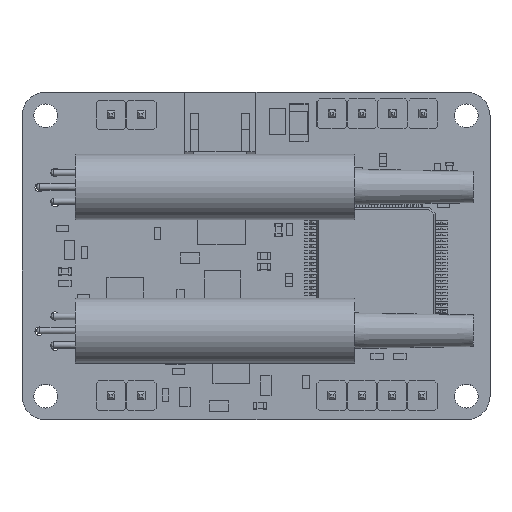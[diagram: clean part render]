
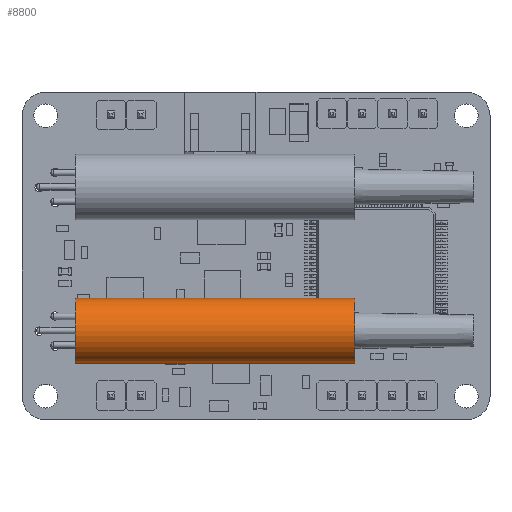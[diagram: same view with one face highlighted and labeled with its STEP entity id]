
A CAD part, top view. The second image highlights one B-rep face of the part: STEP entity #8800.
In plain terms, the highlighted cylindrical face has radius 2.75 mm (diameter 5.5 mm), a full revolution.
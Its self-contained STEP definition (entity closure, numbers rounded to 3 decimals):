
#8800 = ADVANCED_FACE('',(#8801),#8814,.T.);
#8801 = FACE_BOUND('',#8802,.T.);
#8802 = EDGE_LOOP('',(#8803,#8859,#8881,#8930));
#8803 = ORIENTED_EDGE('',*,*,#8804,.F.);
#8804 = EDGE_CURVE('',#8805,#8805,#8807,.T.);
#8805 = VERTEX_POINT('',#8806);
#8806 = CARTESIAN_POINT('',(2.75,0.,23.5));
#8807 = SURFACE_CURVE('',#8808,(#8813,#8847),.PCURVE_S1.);
#8808 = CIRCLE('',#8809,2.75);
#8809 = AXIS2_PLACEMENT_3D('',#8810,#8811,#8812);
#8810 = CARTESIAN_POINT('',(0.,0.,23.5));
#8811 = DIRECTION('',(0.,0.,1.));
#8812 = DIRECTION('',(1.,0.,0.));
#8813 = PCURVE('',#8814,#8819);
#8814 = CYLINDRICAL_SURFACE('',#8815,2.75);
#8815 = AXIS2_PLACEMENT_3D('',#8816,#8817,#8818);
#8816 = CARTESIAN_POINT('',(0.,0.,23.5));
#8817 = DIRECTION('',(0.,0.,-1.));
#8818 = DIRECTION('',(-1.,0.,0.));
#8819 = DEFINITIONAL_REPRESENTATION('',(#8820),#8846);
#8820 = B_SPLINE_CURVE_WITH_KNOTS('',3,(#8821,#8822,#8823,#8824,#8825,
    #8826,#8827,#8828,#8829,#8830,#8831,#8832,#8833,#8834,#8835,#8836,
    #8837,#8838,#8839,#8840,#8841,#8842,#8843,#8844,#8845),
  .UNSPECIFIED.,.F.,.F.,(4,1,1,1,1,1,1,1,1,1,1,1,1,1,1,1,1,1,1,1,1,1,4),
  (0.,0.286,0.571,0.857,1.142,
    1.428,1.714,1.999,2.285,
    2.57,2.856,3.142,3.427,
    3.713,3.998,4.284,4.57,
    4.855,5.141,5.426,5.712,
    5.998,6.283),.QUASI_UNIFORM_KNOTS.);
#8821 = CARTESIAN_POINT('',(9.425,0.));
#8822 = CARTESIAN_POINT('',(9.33,0.));
#8823 = CARTESIAN_POINT('',(9.139,0.));
#8824 = CARTESIAN_POINT('',(8.854,0.));
#8825 = CARTESIAN_POINT('',(8.568,0.));
#8826 = CARTESIAN_POINT('',(8.282,0.));
#8827 = CARTESIAN_POINT('',(7.997,0.));
#8828 = CARTESIAN_POINT('',(7.711,0.));
#8829 = CARTESIAN_POINT('',(7.426,0.));
#8830 = CARTESIAN_POINT('',(7.14,0.));
#8831 = CARTESIAN_POINT('',(6.854,0.));
#8832 = CARTESIAN_POINT('',(6.569,0.));
#8833 = CARTESIAN_POINT('',(6.283,0.));
#8834 = CARTESIAN_POINT('',(5.998,0.));
#8835 = CARTESIAN_POINT('',(5.712,0.));
#8836 = CARTESIAN_POINT('',(5.426,0.));
#8837 = CARTESIAN_POINT('',(5.141,0.));
#8838 = CARTESIAN_POINT('',(4.855,0.));
#8839 = CARTESIAN_POINT('',(4.57,0.));
#8840 = CARTESIAN_POINT('',(4.284,0.));
#8841 = CARTESIAN_POINT('',(3.998,0.));
#8842 = CARTESIAN_POINT('',(3.713,0.));
#8843 = CARTESIAN_POINT('',(3.427,0.));
#8844 = CARTESIAN_POINT('',(3.237,0.));
#8845 = CARTESIAN_POINT('',(3.142,0.));
#8846 = ( GEOMETRIC_REPRESENTATION_CONTEXT(2) 
PARAMETRIC_REPRESENTATION_CONTEXT() REPRESENTATION_CONTEXT('2D SPACE',''
  ) );
#8847 = PCURVE('',#8848,#8853);
#8848 = PLANE('',#8849);
#8849 = AXIS2_PLACEMENT_3D('',#8850,#8851,#8852);
#8850 = CARTESIAN_POINT('',(0.,0.,23.5));
#8851 = DIRECTION('',(0.,0.,1.));
#8852 = DIRECTION('',(1.,0.,0.));
#8853 = DEFINITIONAL_REPRESENTATION('',(#8854),#8858);
#8854 = CIRCLE('',#8855,2.75);
#8855 = AXIS2_PLACEMENT_2D('',#8856,#8857);
#8856 = CARTESIAN_POINT('',(0.,0.));
#8857 = DIRECTION('',(1.,0.));
#8858 = ( GEOMETRIC_REPRESENTATION_CONTEXT(2) 
PARAMETRIC_REPRESENTATION_CONTEXT() REPRESENTATION_CONTEXT('2D SPACE',''
  ) );
#8859 = ORIENTED_EDGE('',*,*,#8860,.T.);
#8860 = EDGE_CURVE('',#8805,#8861,#8863,.T.);
#8861 = VERTEX_POINT('',#8862);
#8862 = CARTESIAN_POINT('',(2.75,0.,0.));
#8863 = SEAM_CURVE('',#8864,(#8867,#8874),.PCURVE_S1.);
#8864 = B_SPLINE_CURVE_WITH_KNOTS('',1,(#8865,#8866),.UNSPECIFIED.,.F.,
  .F.,(2,2),(0.,23.5),.PIECEWISE_BEZIER_KNOTS.);
#8865 = CARTESIAN_POINT('',(2.75,0.,23.5));
#8866 = CARTESIAN_POINT('',(2.75,0.,0.));
#8867 = PCURVE('',#8814,#8868);
#8868 = DEFINITIONAL_REPRESENTATION('',(#8869),#8873);
#8869 = LINE('',#8870,#8871);
#8870 = CARTESIAN_POINT('',(9.425,0.));
#8871 = VECTOR('',#8872,1.);
#8872 = DIRECTION('',(0.,1.));
#8873 = ( GEOMETRIC_REPRESENTATION_CONTEXT(2) 
PARAMETRIC_REPRESENTATION_CONTEXT() REPRESENTATION_CONTEXT('2D SPACE',''
  ) );
#8874 = PCURVE('',#8814,#8875);
#8875 = DEFINITIONAL_REPRESENTATION('',(#8876),#8880);
#8876 = LINE('',#8877,#8878);
#8877 = CARTESIAN_POINT('',(3.142,0.));
#8878 = VECTOR('',#8879,1.);
#8879 = DIRECTION('',(0.,1.));
#8880 = ( GEOMETRIC_REPRESENTATION_CONTEXT(2) 
PARAMETRIC_REPRESENTATION_CONTEXT() REPRESENTATION_CONTEXT('2D SPACE',''
  ) );
#8881 = ORIENTED_EDGE('',*,*,#8882,.T.);
#8882 = EDGE_CURVE('',#8861,#8861,#8883,.T.);
#8883 = SURFACE_CURVE('',#8884,(#8889,#8918),.PCURVE_S1.);
#8884 = CIRCLE('',#8885,2.75);
#8885 = AXIS2_PLACEMENT_3D('',#8886,#8887,#8888);
#8886 = CARTESIAN_POINT('',(0.,0.,0.));
#8887 = DIRECTION('',(0.,0.,1.));
#8888 = DIRECTION('',(1.,0.,0.));
#8889 = PCURVE('',#8814,#8890);
#8890 = DEFINITIONAL_REPRESENTATION('',(#8891),#8917);
#8891 = B_SPLINE_CURVE_WITH_KNOTS('',3,(#8892,#8893,#8894,#8895,#8896,
    #8897,#8898,#8899,#8900,#8901,#8902,#8903,#8904,#8905,#8906,#8907,
    #8908,#8909,#8910,#8911,#8912,#8913,#8914,#8915,#8916),
  .UNSPECIFIED.,.F.,.F.,(4,1,1,1,1,1,1,1,1,1,1,1,1,1,1,1,1,1,1,1,1,1,4),
  (0.,0.286,0.571,0.857,1.142,
    1.428,1.714,1.999,2.285,
    2.57,2.856,3.142,3.427,
    3.713,3.998,4.284,4.57,
    4.855,5.141,5.426,5.712,
    5.998,6.283),.QUASI_UNIFORM_KNOTS.);
#8892 = CARTESIAN_POINT('',(9.425,23.5));
#8893 = CARTESIAN_POINT('',(9.33,23.5));
#8894 = CARTESIAN_POINT('',(9.139,23.5));
#8895 = CARTESIAN_POINT('',(8.854,23.5));
#8896 = CARTESIAN_POINT('',(8.568,23.5));
#8897 = CARTESIAN_POINT('',(8.282,23.5));
#8898 = CARTESIAN_POINT('',(7.997,23.5));
#8899 = CARTESIAN_POINT('',(7.711,23.5));
#8900 = CARTESIAN_POINT('',(7.426,23.5));
#8901 = CARTESIAN_POINT('',(7.14,23.5));
#8902 = CARTESIAN_POINT('',(6.854,23.5));
#8903 = CARTESIAN_POINT('',(6.569,23.5));
#8904 = CARTESIAN_POINT('',(6.283,23.5));
#8905 = CARTESIAN_POINT('',(5.998,23.5));
#8906 = CARTESIAN_POINT('',(5.712,23.5));
#8907 = CARTESIAN_POINT('',(5.426,23.5));
#8908 = CARTESIAN_POINT('',(5.141,23.5));
#8909 = CARTESIAN_POINT('',(4.855,23.5));
#8910 = CARTESIAN_POINT('',(4.57,23.5));
#8911 = CARTESIAN_POINT('',(4.284,23.5));
#8912 = CARTESIAN_POINT('',(3.998,23.5));
#8913 = CARTESIAN_POINT('',(3.713,23.5));
#8914 = CARTESIAN_POINT('',(3.427,23.5));
#8915 = CARTESIAN_POINT('',(3.237,23.5));
#8916 = CARTESIAN_POINT('',(3.142,23.5));
#8917 = ( GEOMETRIC_REPRESENTATION_CONTEXT(2) 
PARAMETRIC_REPRESENTATION_CONTEXT() REPRESENTATION_CONTEXT('2D SPACE',''
  ) );
#8918 = PCURVE('',#8919,#8924);
#8919 = PLANE('',#8920);
#8920 = AXIS2_PLACEMENT_3D('',#8921,#8922,#8923);
#8921 = CARTESIAN_POINT('',(0.,0.,0.));
#8922 = DIRECTION('',(0.,0.,1.));
#8923 = DIRECTION('',(1.,0.,0.));
#8924 = DEFINITIONAL_REPRESENTATION('',(#8925),#8929);
#8925 = CIRCLE('',#8926,2.75);
#8926 = AXIS2_PLACEMENT_2D('',#8927,#8928);
#8927 = CARTESIAN_POINT('',(0.,0.));
#8928 = DIRECTION('',(1.,0.));
#8929 = ( GEOMETRIC_REPRESENTATION_CONTEXT(2) 
PARAMETRIC_REPRESENTATION_CONTEXT() REPRESENTATION_CONTEXT('2D SPACE',''
  ) );
#8930 = ORIENTED_EDGE('',*,*,#8860,.F.);
